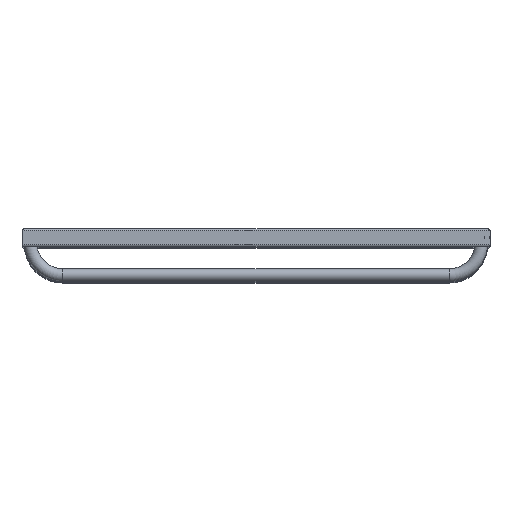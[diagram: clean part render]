
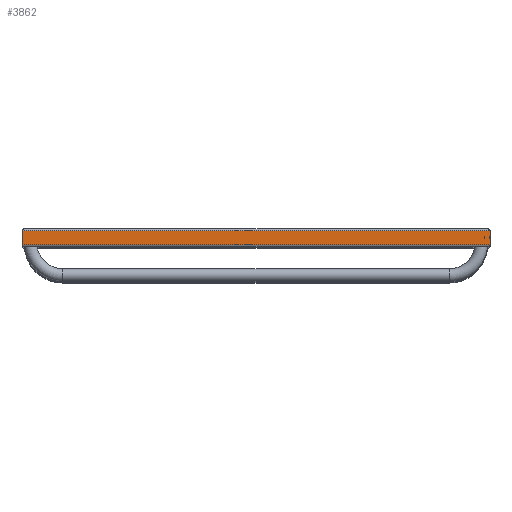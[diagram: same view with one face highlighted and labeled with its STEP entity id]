
A CAD part, top view. The second image highlights one B-rep face of the part: STEP entity #3862.
In plain terms, the highlighted planar face has unit normal (0, 0, 1).
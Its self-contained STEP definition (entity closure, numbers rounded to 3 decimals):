
#243=CARTESIAN_POINT('',(400.0,12.,1480.0));
#244=VERTEX_POINT('',#243);
#251=CARTESIAN_POINT('',(400.0,-12.,1480.0));
#252=VERTEX_POINT('',#251);
#253=CARTESIAN_POINT('',(400.0,12.,1480.0));
#254=DIRECTION('',(0.0,-1.0,0.0));
#255=VECTOR('',#254,24.);
#256=LINE('',#253,#255);
#257=EDGE_CURVE('',#244,#252,#256,.T.);
#3713=CARTESIAN_POINT('',(-400.,12.,1480.0));
#3714=VERTEX_POINT('',#3713);
#3715=CARTESIAN_POINT('',(-400.0,12.,1480.0));
#3716=DIRECTION('',(1.0,0.0,0.0));
#3717=VECTOR('',#3716,800.0);
#3718=LINE('',#3715,#3717);
#3719=EDGE_CURVE('',#3714,#244,#3718,.T.);
#3757=CARTESIAN_POINT('',(-400.,-12.,1480.0));
#3758=VERTEX_POINT('',#3757);
#3765=CARTESIAN_POINT('',(-400.,-12.,1480.0));
#3766=DIRECTION('',(0.0,1.0,0.0));
#3767=VECTOR('',#3766,24.);
#3768=LINE('',#3765,#3767);
#3769=EDGE_CURVE('',#3758,#3714,#3768,.T.);
#3821=CARTESIAN_POINT('',(400.0,-12.,1480.0));
#3822=DIRECTION('',(-1.0,0.0,0.0));
#3823=VECTOR('',#3822,800.0);
#3824=LINE('',#3821,#3823);
#3825=EDGE_CURVE('',#252,#3758,#3824,.T.);
#3851=CARTESIAN_POINT('',(385.0,0.,1480.0));
#3852=DIRECTION('',(0.0,0.0,1.0));
#3853=DIRECTION('',(1.0,0.0,0.0));
#3854=AXIS2_PLACEMENT_3D('',#3851,#3852,#3853);
#3855=PLANE('',#3854);
#3856=ORIENTED_EDGE('',*,*,#3719,.F.);
#3857=ORIENTED_EDGE('',*,*,#3769,.F.);
#3858=ORIENTED_EDGE('',*,*,#3825,.F.);
#3859=ORIENTED_EDGE('',*,*,#257,.F.);
#3860=EDGE_LOOP('',(#3856,#3857,#3858,#3859));
#3861=FACE_OUTER_BOUND('',#3860,.T.);
#3862=ADVANCED_FACE('',(#3861),#3855,.T.);
